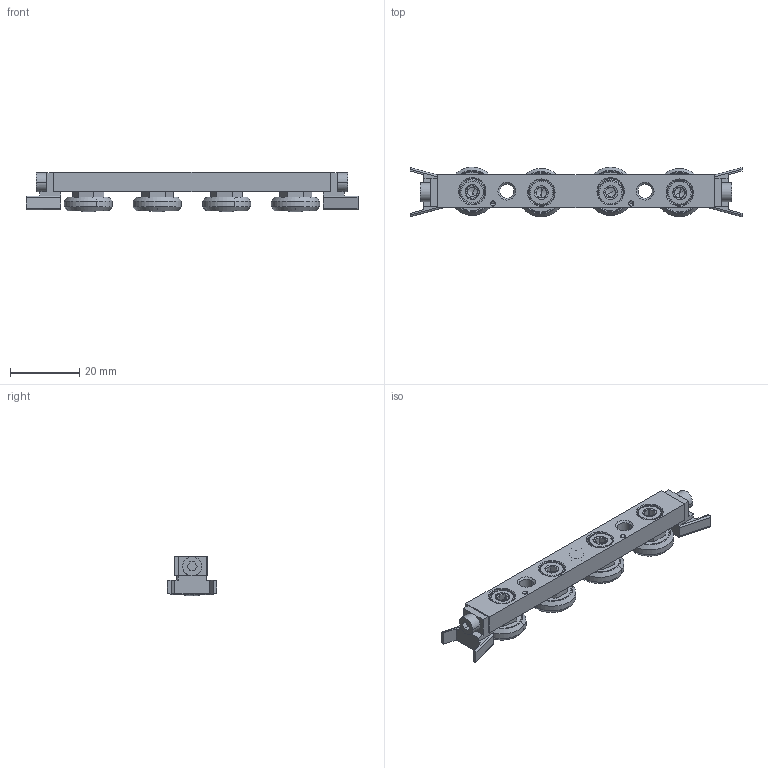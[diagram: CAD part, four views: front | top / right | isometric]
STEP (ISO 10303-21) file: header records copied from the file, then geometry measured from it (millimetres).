
FILE_DESCRIPTION (( 'STEP AP203' ), '1' );
FILE_NAME ('Default.step', '2019-06-29T22:00:21', ( '' ), ( '' ), 'SwSTEP 2.0', 'SolidWorks 2017', '' );
FILE_SCHEMA (( 'CONFIG_CONTROL_DESIGN' ));
Length unit declared in the file: millimetre
Products named in the file (6): Part5; Default; Part8; Part4; Part7; Part1
Assembly tree (16 placements, depth 2):
  Default
    Part1
    Part8  x9
    Part4  x2
    Part5  x2
    Part7  x2
Bounding box: 96 x 14.33 x 11.54 mm (x, y, z)
Volume: 7645.1 mm3; surface area: 7771.2 mm2
Topology: 16 solids, 16 shells, 478 faces, 1110 edges, 679 vertices
Faces by surface type: plane 250, cone 120, cylinder 82, torus 26
Entity records: 6469 total; most frequent: CARTESIAN_POINT 1046, DIRECTION 1010, ORIENTED_EDGE 872, EDGE_CURVE 436, AXIS2_PLACEMENT_3D 384, VERTEX_POINT 279, LINE 242, VECTOR 242
